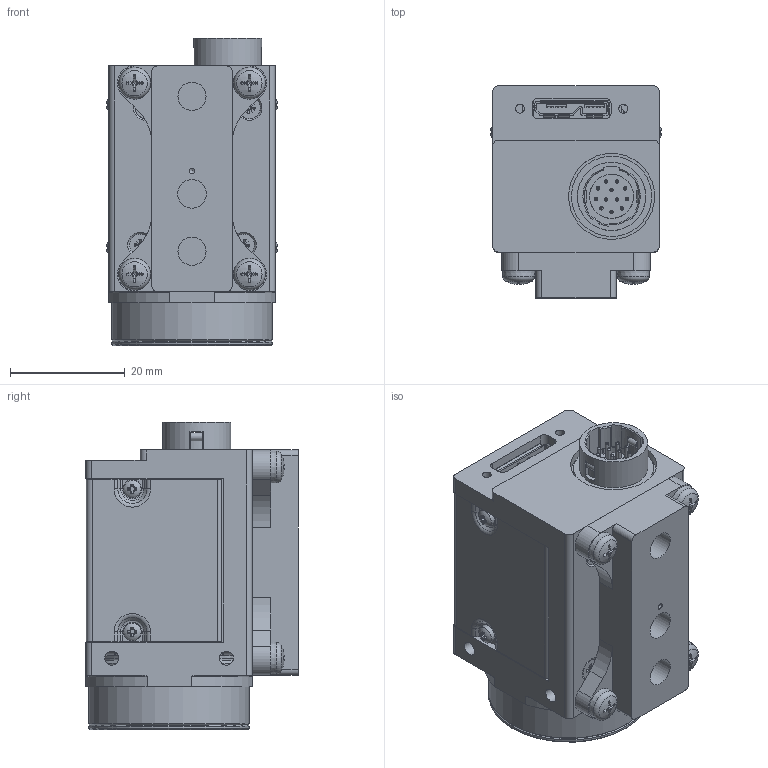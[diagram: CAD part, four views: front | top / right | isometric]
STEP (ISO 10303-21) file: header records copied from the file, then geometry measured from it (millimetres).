
FILE_DESCRIPTION(/* description */ (''),/* implementation_level */ '2;1');
FILE_NAME(/* name */ 'D:\HiDrive\1_Konstruktion\1_KUNDEN\TIS\139-12_135-12_124-11_121-11_FPGA-Kamera\135-12-1_FPGA-Kamera_USB-3_13-8\IPT und STEP Ableitungen für Kunden\135-12-12(FPGA_C-FP_USB3_18,8_ER-12,4)\3_135-12-12(FPGA_C-FP_USB3_18,8_ER-12,4)_ZB_m.Trip.stp',/* time_stamp */ '2017-10-17T21:15:08+02:00',/* author */ ('khw'),/* organization */ (''),/* preprocessor_version */ 'ST-DEVELOPER v16.5',/* originating_system */ 'Autodesk Inventor 2017',/* authorisation */ '');
FILE_SCHEMA (('AUTOMOTIVE_DESIGN { 1 0 10303 214 3 1 1 }'));
Length unit declared in the file: millimetre
Products named in the file (4): 3_135-12-12(FPGA_C-FP_USB3_18,8_ER-12,4)_ZB_m.Trip; 2_135-12-12(FPGA_C-FP_USB3_18,8_ER-12,4)_Ableit v.1; 124-11-2-00-03(TripodAdapter); ISO 7045 - M3 x 6 - 4.8 - H
Assembly tree (6 placements, depth 2):
  3_135-12-12(FPGA_C-FP_USB3_18,8_ER-12,4)_ZB_m.Trip
    2_135-12-12(FPGA_C-FP_USB3_18,8_ER-12,4)_Ableit v.1
    124-11-2-00-03(TripodAdapter)
    ISO 7045 - M3 x 6 - 4.8 - H  x4
Bounding box: 29.72 x 37 x 53.55 mm (x, y, z)
Volume: 17130.9 mm3; surface area: 19871.9 mm2
Topology: 7 solids, 19 shells, 1652 faces, 4536 edges, 2960 vertices
Faces by surface type: plane 910, cylinder 426, cone 226, torus 70, bspline 12, sphere 8
Full cylindrical faces by diameter (mm): 0.6 x12, 0.7 x1, 0.95 x2, 1 x1, 1.221 x8, 1.425 x4, 1.567 x9, 1.755 x4, 1.9 x4, 2 x2, 2.1 x2, 2.2 x4, 2.459 x10, 2.729 x4, 3 x4, 3.3 x4, 3.8 x4, 4 x4, 4.917 x2, 4.978 x1, 7.7 x1, 8.6 x2, 11.9 x1, 12 x1, 14 x1, 15 x1, 20.2 x1, 21.9 x1, 22 x2, 24.536 x1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
Entity records: 51416 total; most frequent: CARTESIAN_POINT 10450, DIRECTION 8218, ORIENTED_EDGE 8094, EDGE_CURVE 4047, AXIS2_PLACEMENT_3D 2886, VERTEX_POINT 2728, LINE 2446, VECTOR 2446
